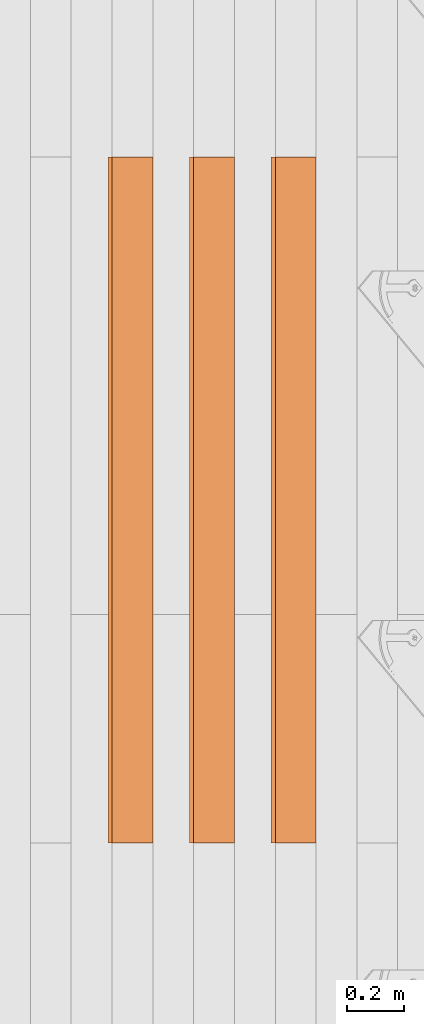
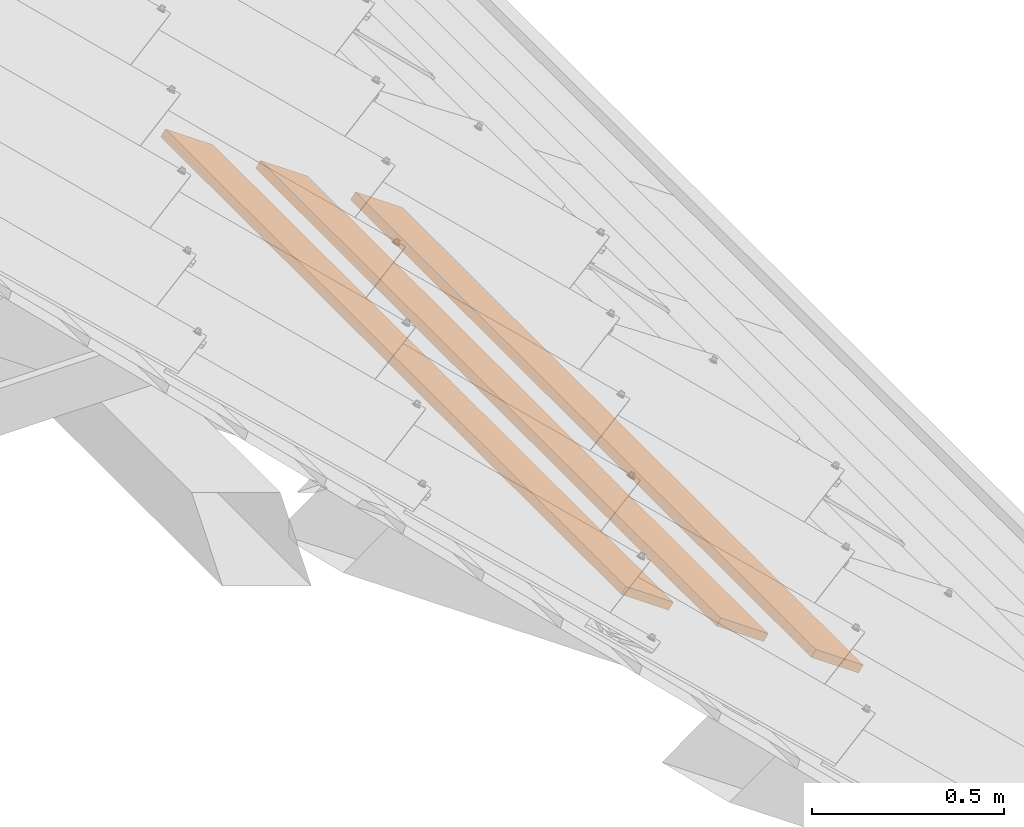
# One storey, part 64 of 151: 3 proxies, 1 element without a shape of its own.
"""IFC2X3 building model written with IfcOpenShell, lengths in millimetres."""

from ifc_helpers import new_model, entity, si_unit, converted_unit, derived_unit, direction, frame, frame_2d, origin, place, context, subcontext, project, spatial, rectangle, extrude, source, transform, mapped, material, type_object, type_shapes, element, aggregate, save


model = new_model("IFC2X3")

# Units and contexts
model_context = context("Model", 3, precision=0.01, world=origin(), true_north=direction((6.12303176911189e-17, 1.0)))
body_context = subcontext(model_context, "Body", "Model", "MODEL_VIEW")
ifc_project = project(units=[si_unit("LENGTHUNIT", "METRE", prefix="MILLI"), si_unit("AREAUNIT", "SQUARE_METRE"), si_unit("VOLUMEUNIT", "CUBIC_METRE"), converted_unit("PLANEANGLEUNIT", "DEGREE", entity("IfcRatioMeasure", 0.0174532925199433), si_unit("PLANEANGLEUNIT", "RADIAN"), dimensions=[0, 0, 0, 0, 0, 0, 0]), si_unit("MASSUNIT", "GRAM", prefix="KILO"), derived_unit("MASSDENSITYUNIT", [(si_unit("MASSUNIT", "GRAM", prefix="KILO"), 1), (si_unit("LENGTHUNIT", "METRE"), -3)]), si_unit("TIMEUNIT", "SECOND"), si_unit("FREQUENCYUNIT", "HERTZ"), si_unit("THERMODYNAMICTEMPERATUREUNIT", "DEGREE_CELSIUS"), derived_unit("THERMALTRANSMITTANCEUNIT", [(si_unit("MASSUNIT", "GRAM", prefix="KILO"), 1), (si_unit("THERMODYNAMICTEMPERATUREUNIT", "KELVIN"), -1), (si_unit("TIMEUNIT", "SECOND"), -3)]), derived_unit("VOLUMETRICFLOWRATEUNIT", [(si_unit("LENGTHUNIT", "METRE"), 3), (si_unit("TIMEUNIT", "SECOND"), -1)]), si_unit("ELECTRICCURRENTUNIT", "AMPERE"), si_unit("ELECTRICVOLTAGEUNIT", "VOLT"), si_unit("POWERUNIT", "WATT"), si_unit("FORCEUNIT", "NEWTON", prefix="KILO"), si_unit("ILLUMINANCEUNIT", "LUX"), si_unit("LUMINOUSFLUXUNIT", "LUMEN"), si_unit("LUMINOUSINTENSITYUNIT", "CANDELA"), derived_unit("USERDEFINED", [(si_unit("MASSUNIT", "GRAM", prefix="KILO"), -1), (si_unit("LENGTHUNIT", "METRE"), -2), (si_unit("TIMEUNIT", "SECOND"), 3), (si_unit("LUMINOUSFLUXUNIT", "LUMEN"), 1)]), derived_unit("LINEARVELOCITYUNIT", [(si_unit("LENGTHUNIT", "METRE"), 1), (si_unit("TIMEUNIT", "SECOND"), -1)]), si_unit("PRESSUREUNIT", "PASCAL"), derived_unit("USERDEFINED", [(si_unit("LENGTHUNIT", "METRE"), -2), (si_unit("MASSUNIT", "GRAM", prefix="KILO"), 1), (si_unit("TIMEUNIT", "SECOND"), -2)])], contexts=[model_context])

# Site, building, storey
site_placement = place(None, origin())
site = spatial("IfcSite", under=ifc_project, at=site_placement, Name="Default", CompositionType="ELEMENT")
building_placement = place(site_placement, origin())
building = spatial("IfcBuilding", under=site, at=building_placement, CompositionType="ELEMENT")
storey_placement = place(building_placement, origin())
storey = spatial("IfcBuildingStorey", under=building, at=storey_placement, Name="Level 1", CompositionType="ELEMENT", Elevation=0.0)

# Assembly, proxies
assembly_placement = place(storey_placement, origin())
assembly = element("IfcElementAssembly", 1, at=assembly_placement, inside=storey, Name="Structural Framing Assembly:Roof Construction Assembly", ObjectType="Structural Framing Assembly:Roof Construction Assembly", AssemblyPlace="NOTDEFINED", PredefinedType="USERDEFINED")
ifc_material = material(Name="Wood - Generic - Wood For Showcase")
building_element_proxy_type_1 = type_object("IfcBuildingElementProxyType", Name="Structural Framing 15", PredefinedType="NOTDEFINED", material=ifc_material)
shared_shape_1 = source(origin(), body_context, "Body", "SweptSolid", [
    extrude(rectangle(XDim=24.9999999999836, YDim=174.344679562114, at=frame_2d((2.22044604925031e-13, -1.63424829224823e-13), x_axis=(1.0, 0.0))), frame((1285.35601305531, 1595.55080214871, 2760.23940055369), z_axis=(0.0, 1.0, 0.0), x_axis=(0.573576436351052, 0.0, 0.819152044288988)), (0.0, 0.0, 1.0), 2400.0),
])
type_shapes(building_element_proxy_type_1, [shared_shape_1])
proxy_1_placement = place(assembly_placement, frame((1914.0802798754, -3340.0, -1300.0)))
proxy_1 = element("IfcBuildingElementProxy", 2, at=proxy_1_placement, type_object=building_element_proxy_type_1, material=ifc_material, Name="Structural Framing 221:Structural Framing 15", ObjectType="Structural Framing 221:Structural Framing 15", context=body_context, shape_type="MappedRepresentation", body=[
    mapped(shared_shape_1, transform((0.0, 0.0, 0.0), scale=1.0)),
])
building_element_proxy_type_2 = type_object("IfcBuildingElementProxyType", Name="Structural Framing 15", PredefinedType="NOTDEFINED", material=ifc_material)
shared_shape_2 = source(origin(), body_context, "Body", "SweptSolid", [
    extrude(rectangle(XDim=24.9999999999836, YDim=174.344679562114, at=frame_2d((2.22044604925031e-13, -1.63424829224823e-13), x_axis=(1.0, 0.0))), frame((1285.35601305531, 1595.55080214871, 2760.23940055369), z_axis=(0.0, 1.0, 0.0), x_axis=(0.573576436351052, 0.0, 0.819152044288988)), (0.0, 0.0, 1.0), 2400.0),
])
type_shapes(building_element_proxy_type_2, [shared_shape_2])
proxy_2_placement = place(assembly_placement, frame((2199.70988122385, -3340.0, -1500.0)))
proxy_2 = element("IfcBuildingElementProxy", 3, at=proxy_2_placement, type_object=building_element_proxy_type_2, material=ifc_material, Name="Structural Framing 231:Structural Framing 15", ObjectType="Structural Framing 231:Structural Framing 15", context=body_context, shape_type="MappedRepresentation", body=[
    mapped(shared_shape_2, transform((0.0, 0.0, 0.0), scale=1.0)),
])
building_element_proxy_type_3 = type_object("IfcBuildingElementProxyType", Name="Structural Framing 15", PredefinedType="NOTDEFINED", material=ifc_material)
shared_shape_3 = source(origin(), body_context, "Body", "SweptSolid", [
    extrude(rectangle(XDim=24.9999999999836, YDim=174.344679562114, at=frame_2d((2.22044604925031e-13, -1.63424829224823e-13), x_axis=(1.0, 0.0))), frame((1285.35601305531, 1595.55080214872, 2760.23940055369), z_axis=(0.0, 1.0, 0.0), x_axis=(0.573576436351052, 0.0, 0.819152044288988)), (0.0, 0.0, 1.0), 2400.0),
])
type_shapes(building_element_proxy_type_3, [shared_shape_3])
proxy_3_placement = place(assembly_placement, frame((2485.3394825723, -3340.0, -1700.0)))
proxy_3 = element("IfcBuildingElementProxy", 4, at=proxy_3_placement, type_object=building_element_proxy_type_3, material=ifc_material, Name="Structural Framing 241:Structural Framing 15", ObjectType="Structural Framing 241:Structural Framing 15", context=body_context, shape_type="MappedRepresentation", body=[
    mapped(shared_shape_3, transform((0.0, 0.0, 0.0), scale=1.0)),
])
aggregate(assembly, [proxy_1, proxy_2, proxy_3])

save(model, "model.ifc")
